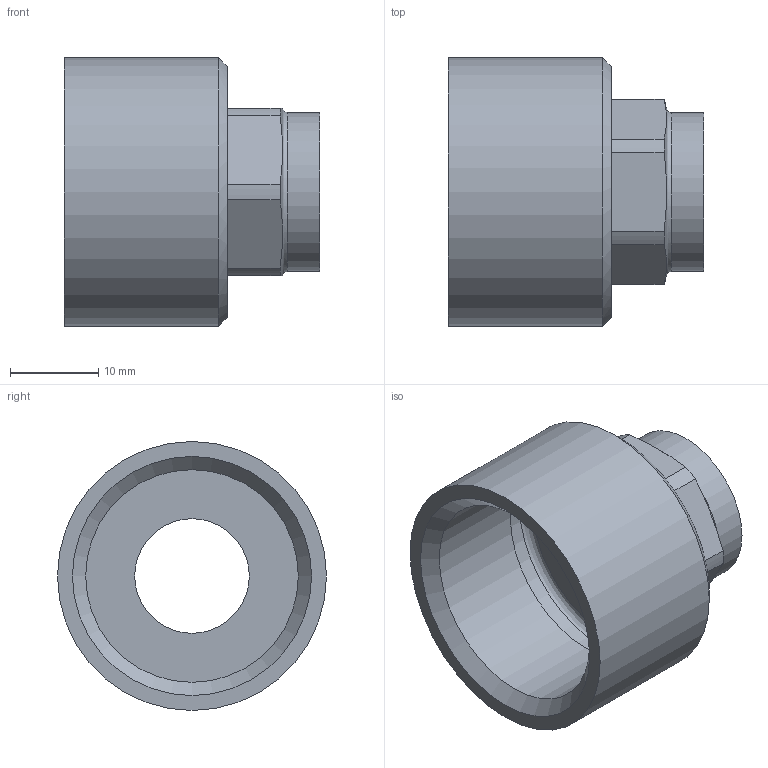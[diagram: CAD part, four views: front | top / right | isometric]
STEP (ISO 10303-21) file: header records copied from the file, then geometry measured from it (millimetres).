
FILE_DESCRIPTION((''),'2;1');
FILE_NAME('G:\Engineering\Public\RYSUNKI\SANHA POLSKA\4270G\STEP\14270_15-34(2).stp','2013-09-09T10:25:56',('haldrzynski'),(''),'Autodesk Inventor 2009','Autodesk Inventor 2009','');
FILE_SCHEMA(('AUTOMOTIVE_DESIGN { 1 0 10303 214 1 1 1 1 }'));
Length unit declared in the file: millimetre
Products named in the file (1): 14270_15-34(2)
Bounding box: 29 x 30.5 x 30.5 mm (x, y, z)
Volume: 6438.1 mm3; surface area: 5432.3 mm2
Topology: 1 solids, 1 shells, 29 faces, 66 edges, 42 vertices
Faces by surface type: cylinder 12, plane 11, cone 4, bspline 2
Full cylindrical faces by diameter (mm): 13 x1, 15 x1, 18 x1, 24.12 x1, 26.44 x1, 30.5 x1
Entity records: 846 total; most frequent: CARTESIAN_POINT 222, DIRECTION 130, ORIENTED_EDGE 104, AXIS2_PLACEMENT_3D 56, EDGE_CURVE 52, EDGE_LOOP 46, VERTEX_POINT 40, FACE_OUTER_BOUND 29
